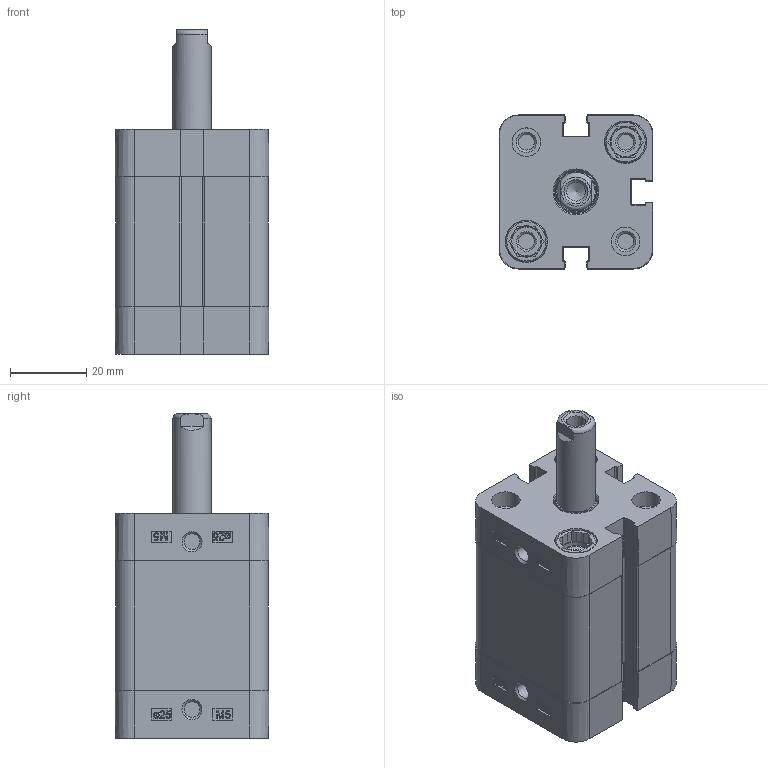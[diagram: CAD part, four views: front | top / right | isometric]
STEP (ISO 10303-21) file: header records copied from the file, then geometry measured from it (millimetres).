
FILE_DESCRIPTION(/* description */ ('Unknown'),/* implementation_level */ '2;1');
FILE_NAME(/* name */ 'ZENV 25_20',/* time_stamp */ '2025-01-24T09:56:22+01:00',/* author */ ('Unknown'),/* organization */ ('HAFNER Pneumatika Kft'),/* preprocessor_version */ 'ST-DEVELOPER v16.7',/* originating_system */ 'Solid Edge',/* authorisation */ 'Unknown');
FILE_SCHEMA (('AUTOMOTIVE_DESIGN {1 0 10303 214 3 1 1}'));
Length unit declared in the file: millimetre
Products named in the file (5): ZENV 25_20; Kit_1; Kit_2; Profilrohr; Kolbenstange
Assembly tree (4 placements, depth 2):
  ZENV 25_20
    Kit_1
    Kit_2
    Profilrohr
    Kolbenstange
Bounding box: 40.3 x 40.3 x 85 mm (x, y, z)
Volume: 76222.3 mm3; surface area: 30418.1 mm2
Topology: 4 solids, 10 shells, 583 faces, 1551 edges, 1026 vertices
Faces by surface type: plane 298, cylinder 141, bspline 84, cone 44, torus 16
Full cylindrical faces by diameter (mm): 4.134 x10, 4.917 x2, 7.5 x4, 8 x8, 9 x1, 10 x1, 10.48 x1, 10.9 x4, 11.1 x4, 11.4 x1, 12 x1, 13.84 x1, 14 x1, 25 x2
Entity records: 21648 total; most frequent: CARTESIAN_POINT 4139, ORIENTED_EDGE 2860, DIRECTION 2612, EDGE_CURVE 1430, VERTEX_POINT 995, LINE 880, VECTOR 880, AXIS2_PLACEMENT_3D 866
